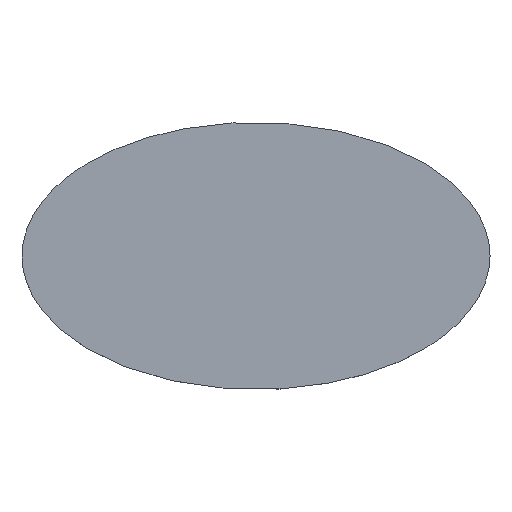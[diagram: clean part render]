
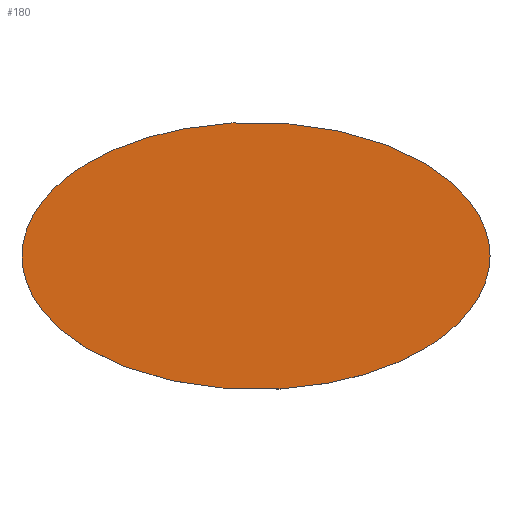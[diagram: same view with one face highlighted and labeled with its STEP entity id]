
A CAD part, top view. The second image highlights one B-rep face of the part: STEP entity #180.
In plain terms, the highlighted planar face has unit normal (0, 0, 1).
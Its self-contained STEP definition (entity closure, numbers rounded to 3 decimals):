
#180=ADVANCED_FACE('',(#252),#931,.T.);
#252=FACE_OUTER_BOUND('',#324,.T.);
#324=EDGE_LOOP('',(#399,#400));
#399=ORIENTED_EDGE('',*,*,#675,.F.);
#400=ORIENTED_EDGE('',*,*,#671,.F.);
#671=EDGE_CURVE('',#835,#837,#813,.T.);
#675=EDGE_CURVE('',#837,#835,#817,.T.);
#813=(
BOUNDED_CURVE()
B_SPLINE_CURVE(2,(#1182,#1183,#1184,#1185,#1186),.UNSPECIFIED.,.F.,.F.)
B_SPLINE_CURVE_WITH_KNOTS((3,2,3),(-6.283,-4.712,
-3.142),.UNSPECIFIED.)
CURVE()
GEOMETRIC_REPRESENTATION_ITEM()
RATIONAL_B_SPLINE_CURVE((1.,0.707,1.,0.707,1.))
REPRESENTATION_ITEM('')
);
#817=(
BOUNDED_CURVE()
B_SPLINE_CURVE(2,(#1196,#1197,#1198,#1199,#1200),.UNSPECIFIED.,.F.,.F.)
B_SPLINE_CURVE_WITH_KNOTS((3,2,3),(-3.142,-1.571,0.),
 .UNSPECIFIED.)
CURVE()
GEOMETRIC_REPRESENTATION_ITEM()
RATIONAL_B_SPLINE_CURVE((1.,0.707,1.,0.707,1.))
REPRESENTATION_ITEM('')
);
#835=VERTEX_POINT('',#1178);
#837=VERTEX_POINT('',#1180);
#931=PLANE('',#1023);
#1023=AXIS2_PLACEMENT_3D('',#1166,#1089,$);
#1089=DIRECTION('',(0.,0.,1.));
#1166=CARTESIAN_POINT('',(656.25,-375.,400.));
#1178=CARTESIAN_POINT('',(525.,0.,400.));
#1180=CARTESIAN_POINT('',(-525.,0.,400.));
#1182=CARTESIAN_POINT('',(525.,0.,400.));
#1183=CARTESIAN_POINT('',(525.,-300.,400.));
#1184=CARTESIAN_POINT('',(0.,-300.,400.));
#1185=CARTESIAN_POINT('',(-525.,-300.,400.));
#1186=CARTESIAN_POINT('',(-525.,0.,400.));
#1196=CARTESIAN_POINT('',(-525.,0.,400.));
#1197=CARTESIAN_POINT('',(-525.,300.,400.));
#1198=CARTESIAN_POINT('',(0.,300.,400.));
#1199=CARTESIAN_POINT('',(525.,300.,400.));
#1200=CARTESIAN_POINT('',(525.,0.,400.));
